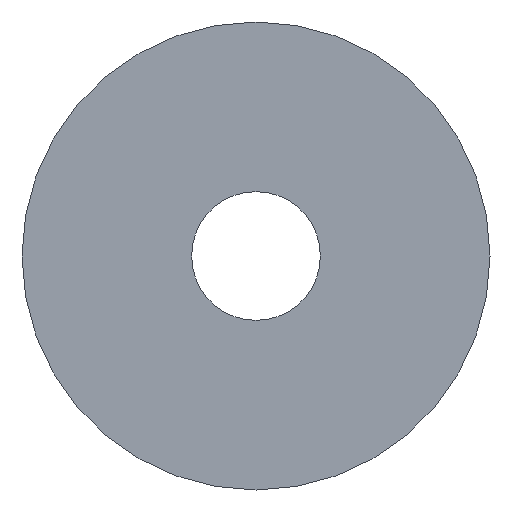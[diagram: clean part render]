
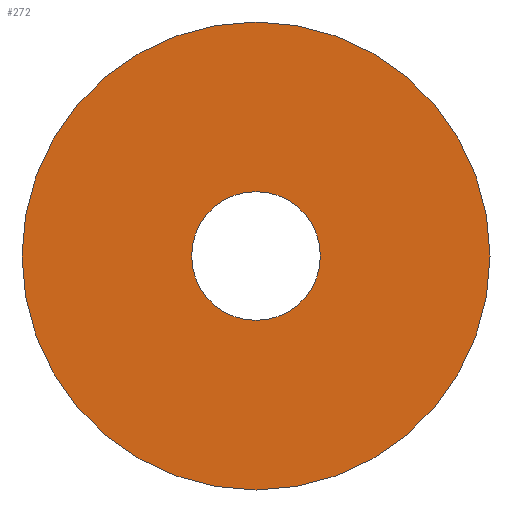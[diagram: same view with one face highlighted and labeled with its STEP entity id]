
A CAD part, front view. The second image highlights one B-rep face of the part: STEP entity #272.
In plain terms, the highlighted planar face has unit normal (0, -1, 0).
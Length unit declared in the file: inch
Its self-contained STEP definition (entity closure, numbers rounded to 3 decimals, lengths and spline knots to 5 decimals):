
#5 = EDGE_CURVE ( 'NONE', #108, #49, #84, .T. ) ;
#18 = DIRECTION ( 'NONE',  ( 0., -1., 0. ) ) ;
#31 = DIRECTION ( 'NONE',  ( 0., 0., -1. ) ) ;
#49 = VERTEX_POINT ( 'NONE', #223 ) ;
#50 = DIRECTION ( 'NONE',  ( 0., 0., -1. ) ) ;
#58 = AXIS2_PLACEMENT_3D ( 'NONE', #77, #217, #50 ) ;
#63 = DIRECTION ( 'NONE',  ( 0., 1., 0. ) ) ;
#66 = EDGE_CURVE ( 'NONE', #183, #228, #74, .T. ) ;
#71 = EDGE_CURVE ( 'NONE', #228, #183, #169, .T. ) ;
#74 = CIRCLE ( 'NONE', #371, 0.19685 ) ;
#77 = CARTESIAN_POINT ( 'NONE',  ( 0., 0., 0. ) ) ;
#80 = DIRECTION ( 'NONE',  ( 0., -1., 0. ) ) ;
#84 = CIRCLE ( 'NONE', #58, 0.05413 ) ;
#102 = CIRCLE ( 'NONE', #127, 0.05413 ) ;
#108 = VERTEX_POINT ( 'NONE', #309 ) ;
#127 = AXIS2_PLACEMENT_3D ( 'NONE', #317, #201, #31 ) ;
#137 = FACE_BOUND ( 'NONE', #147, .T. ) ;
#147 = EDGE_LOOP ( 'NONE', ( #180, #182 ) ) ;
#154 = CARTESIAN_POINT ( 'NONE',  ( 0., 0., 0. ) ) ;
#155 = DIRECTION ( 'NONE',  ( 0., 0., -1. ) ) ;
#163 = AXIS2_PLACEMENT_3D ( 'NONE', #290, #63, #255 ) ;
#169 = CIRCLE ( 'NONE', #335, 0.19685 ) ;
#171 = PLANE ( 'NONE',  #163 ) ;
#180 = ORIENTED_EDGE ( 'NONE', *, *, #5, .F. ) ;
#182 = ORIENTED_EDGE ( 'NONE', *, *, #311, .F. ) ;
#183 = VERTEX_POINT ( 'NONE', #310 ) ;
#189 = CARTESIAN_POINT ( 'NONE',  ( 0., 0., 0. ) ) ;
#201 = DIRECTION ( 'NONE',  ( 0., -1., 0. ) ) ;
#217 = DIRECTION ( 'NONE',  ( 0., -1., 0. ) ) ;
#221 = EDGE_LOOP ( 'NONE', ( #273, #243 ) ) ;
#223 = CARTESIAN_POINT ( 'NONE',  ( 0., 0., 0.05413 ) ) ;
#228 = VERTEX_POINT ( 'NONE', #285 ) ;
#243 = ORIENTED_EDGE ( 'NONE', *, *, #71, .T. ) ;
#255 = DIRECTION ( 'NONE',  ( 0., 0., 1. ) ) ;
#272 = ADVANCED_FACE ( 'NONE', ( #137, #355 ), #171, .F. ) ;
#273 = ORIENTED_EDGE ( 'NONE', *, *, #66, .T. ) ;
#279 = DIRECTION ( 'NONE',  ( 0., 0., -1. ) ) ;
#285 = CARTESIAN_POINT ( 'NONE',  ( 0., 0., 0.19685 ) ) ;
#290 = CARTESIAN_POINT ( 'NONE',  ( -0.19685, 0., 0. ) ) ;
#309 = CARTESIAN_POINT ( 'NONE',  ( 0., 0., -0.05413 ) ) ;
#310 = CARTESIAN_POINT ( 'NONE',  ( 0., 0., -0.19685 ) ) ;
#311 = EDGE_CURVE ( 'NONE', #49, #108, #102, .T. ) ;
#317 = CARTESIAN_POINT ( 'NONE',  ( 0., 0., 0. ) ) ;
#335 = AXIS2_PLACEMENT_3D ( 'NONE', #154, #80, #279 ) ;
#355 = FACE_OUTER_BOUND ( 'NONE', #221, .T. ) ;
#371 = AXIS2_PLACEMENT_3D ( 'NONE', #189, #18, #155 ) ;
